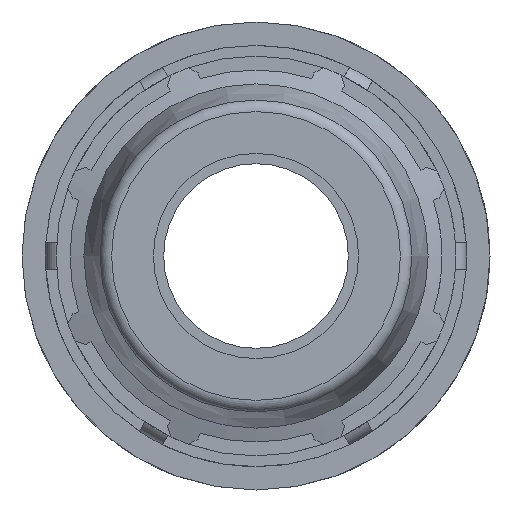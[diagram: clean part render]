
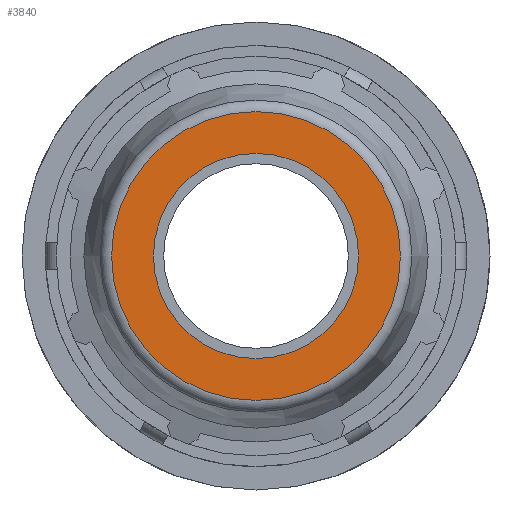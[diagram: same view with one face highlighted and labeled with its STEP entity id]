
A CAD part, left-side view. The second image highlights one B-rep face of the part: STEP entity #3840.
In plain terms, the highlighted planar face has unit normal (-1, 0, 0).
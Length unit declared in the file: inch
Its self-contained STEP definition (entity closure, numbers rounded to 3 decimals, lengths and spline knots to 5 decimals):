
#44=FACE_BOUND('',#492,.T.);
#300=FACE_OUTER_BOUND('',#491,.T.);
#491=EDGE_LOOP('',(#2987,#2988));
#492=EDGE_LOOP('',(#2989,#2990));
#689=CIRCLE('',#4171,1.16644);
#690=CIRCLE('',#4172,1.16644);
#692=CIRCLE('',#4175,0.82874);
#693=CIRCLE('',#4176,0.82874);
#1649=VERTEX_POINT('',#6495);
#1650=VERTEX_POINT('',#6497);
#1651=VERTEX_POINT('',#6502);
#1652=VERTEX_POINT('',#6503);
#2143=EDGE_CURVE('',#1649,#1650,#689,.T.);
#2144=EDGE_CURVE('',#1650,#1649,#690,.T.);
#2146=EDGE_CURVE('',#1651,#1652,#692,.T.);
#2147=EDGE_CURVE('',#1652,#1651,#693,.T.);
#2987=ORIENTED_EDGE('',*,*,#2144,.F.);
#2988=ORIENTED_EDGE('',*,*,#2143,.F.);
#2989=ORIENTED_EDGE('',*,*,#2146,.T.);
#2990=ORIENTED_EDGE('',*,*,#2147,.T.);
#3488=PLANE('',#4174);
#3840=ADVANCED_FACE('',(#300,#44),#3488,.T.);
#4171=AXIS2_PLACEMENT_3D('',#6498,#5018,#5019);
#4172=AXIS2_PLACEMENT_3D('',#6499,#5020,#5021);
#4174=AXIS2_PLACEMENT_3D('',#6501,#5024,#5025);
#4175=AXIS2_PLACEMENT_3D('',#6504,#5026,#5027);
#4176=AXIS2_PLACEMENT_3D('',#6505,#5028,#5029);
#5018=DIRECTION('center_axis',(1.,0.,0.));
#5019=DIRECTION('ref_axis',(0.,-1.,0.));
#5020=DIRECTION('center_axis',(1.,0.,0.));
#5021=DIRECTION('ref_axis',(0.,-1.,0.));
#5024=DIRECTION('center_axis',(-1.,0.,0.));
#5025=DIRECTION('ref_axis',(0.,0.,1.));
#5026=DIRECTION('center_axis',(1.,0.,0.));
#5027=DIRECTION('ref_axis',(0.,0.,-1.));
#5028=DIRECTION('center_axis',(1.,0.,0.));
#5029=DIRECTION('ref_axis',(0.,0.,-1.));
#6495=CARTESIAN_POINT('',(-2.9913,0.,1.16644));
#6497=CARTESIAN_POINT('',(-2.9913,1.16644,0.));
#6498=CARTESIAN_POINT('Origin',(-2.9913,0.,0.));
#6499=CARTESIAN_POINT('Origin',(-2.9913,0.,0.));
#6501=CARTESIAN_POINT('Origin',(-2.9913,1.24311,0.));
#6502=CARTESIAN_POINT('',(-2.9913,0.82874,0.));
#6503=CARTESIAN_POINT('',(-2.9913,-0.82874,0.));
#6504=CARTESIAN_POINT('Origin',(-2.9913,0.,0.));
#6505=CARTESIAN_POINT('Origin',(-2.9913,0.,0.));
